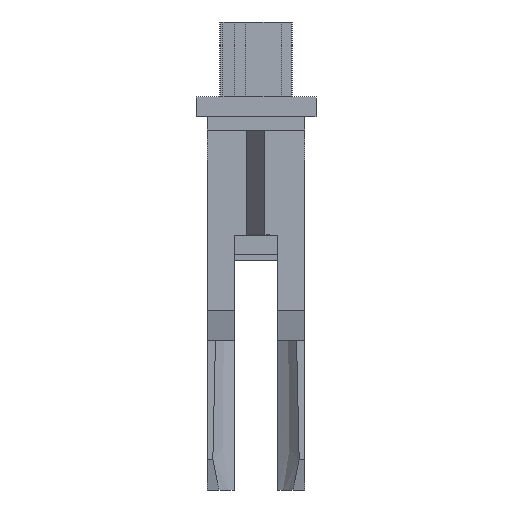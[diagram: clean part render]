
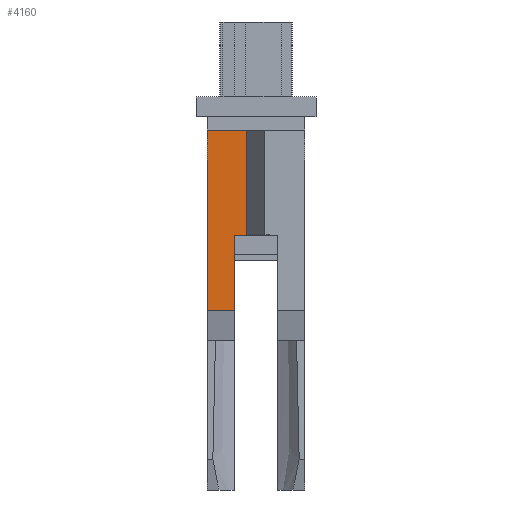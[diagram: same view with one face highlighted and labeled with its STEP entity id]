
A CAD part, front view. The second image highlights one B-rep face of the part: STEP entity #4160.
In plain terms, the highlighted planar face has unit normal (0, -1, 0).
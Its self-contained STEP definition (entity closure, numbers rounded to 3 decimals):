
#107 = EDGE_CURVE ( 'NONE', #4285, #1070, #623, .T. ) ;
#157 = EDGE_LOOP ( 'NONE', ( #4127, #1726, #4056, #2347, #2743, #3524 ) ) ;
#304 = VERTEX_POINT ( 'NONE', #2786 ) ;
#399 = EDGE_CURVE ( 'NONE', #3994, #1150, #1216, .T. ) ;
#414 = DIRECTION ( 'NONE',  ( 0., 0., -1. ) ) ;
#583 = CARTESIAN_POINT ( 'NONE',  ( -3.25, -23., -14.2 ) ) ;
#623 = LINE ( 'NONE', #1978, #1788 ) ;
#744 = VERTEX_POINT ( 'NONE', #2170 ) ;
#752 = CARTESIAN_POINT ( 'NONE',  ( 3.25, -23., -14.2 ) ) ;
#1070 = VERTEX_POINT ( 'NONE', #1283 ) ;
#1115 = DIRECTION ( 'NONE',  ( 0., -1., 0. ) ) ;
#1150 = VERTEX_POINT ( 'NONE', #4316 ) ;
#1216 = LINE ( 'NONE', #583, #3612 ) ;
#1283 = CARTESIAN_POINT ( 'NONE',  ( -1.45, -23., -9.2 ) ) ;
#1408 = CARTESIAN_POINT ( 'NONE',  ( -0.6, -23., -9.2 ) ) ;
#1607 = CARTESIAN_POINT ( 'NONE',  ( -0.6, -23., -9.2 ) ) ;
#1726 = ORIENTED_EDGE ( 'NONE', *, *, #1899, .T. ) ;
#1771 = LINE ( 'NONE', #3084, #4027 ) ;
#1775 = DIRECTION ( 'NONE',  ( -1., 0., 0. ) ) ;
#1788 = VECTOR ( 'NONE', #3307, 1000. ) ;
#1889 = VECTOR ( 'NONE', #1775, 1000. ) ;
#1899 = EDGE_CURVE ( 'NONE', #4285, #304, #2063, .T. ) ;
#1978 = CARTESIAN_POINT ( 'NONE',  ( 3.25, -23., -9.2 ) ) ;
#2063 = LINE ( 'NONE', #1408, #3194 ) ;
#2098 = CARTESIAN_POINT ( 'NONE',  ( 3.25, -23., -2.2 ) ) ;
#2126 = LINE ( 'NONE', #3463, #1889 ) ;
#2170 = CARTESIAN_POINT ( 'NONE',  ( -1.45, -23., -14.2 ) ) ;
#2347 = ORIENTED_EDGE ( 'NONE', *, *, #399, .F. ) ;
#2499 = VECTOR ( 'NONE', #2968, 1000. ) ;
#2743 = ORIENTED_EDGE ( 'NONE', *, *, #3239, .F. ) ;
#2786 = CARTESIAN_POINT ( 'NONE',  ( -0.6, -23., -2.2 ) ) ;
#2968 = DIRECTION ( 'NONE',  ( -1., 0., 0. ) ) ;
#3070 = DIRECTION ( 'NONE',  ( 0., 0., 1. ) ) ;
#3084 = CARTESIAN_POINT ( 'NONE',  ( -1.45, -23., -14.2 ) ) ;
#3194 = VECTOR ( 'NONE', #3722, 1000. ) ;
#3239 = EDGE_CURVE ( 'NONE', #744, #3994, #2126, .T. ) ;
#3307 = DIRECTION ( 'NONE',  ( -1., 0., 0. ) ) ;
#3463 = CARTESIAN_POINT ( 'NONE',  ( 3.25, -23., -14.2 ) ) ;
#3465 = EDGE_CURVE ( 'NONE', #304, #1150, #3757, .T. ) ;
#3524 = ORIENTED_EDGE ( 'NONE', *, *, #4029, .T. ) ;
#3596 = DIRECTION ( 'NONE',  ( 0., 0., 1. ) ) ;
#3612 = VECTOR ( 'NONE', #3596, 1000. ) ;
#3659 = CARTESIAN_POINT ( 'NONE',  ( -3.25, -23., -14.2 ) ) ;
#3722 = DIRECTION ( 'NONE',  ( 0., 0., 1. ) ) ;
#3753 = FACE_OUTER_BOUND ( 'NONE', #157, .T. ) ;
#3757 = LINE ( 'NONE', #2098, #2499 ) ;
#3967 = AXIS2_PLACEMENT_3D ( 'NONE', #752, #1115, #414 ) ;
#3994 = VERTEX_POINT ( 'NONE', #3659 ) ;
#4027 = VECTOR ( 'NONE', #3070, 1000. ) ;
#4029 = EDGE_CURVE ( 'NONE', #744, #1070, #1771, .T. ) ;
#4056 = ORIENTED_EDGE ( 'NONE', *, *, #3465, .T. ) ;
#4102 = PLANE ( 'NONE',  #3967 ) ;
#4127 = ORIENTED_EDGE ( 'NONE', *, *, #107, .F. ) ;
#4160 = ADVANCED_FACE ( 'NONE', ( #3753 ), #4102, .T. ) ;
#4285 = VERTEX_POINT ( 'NONE', #1607 ) ;
#4316 = CARTESIAN_POINT ( 'NONE',  ( -3.25, -23., -2.2 ) ) ;
